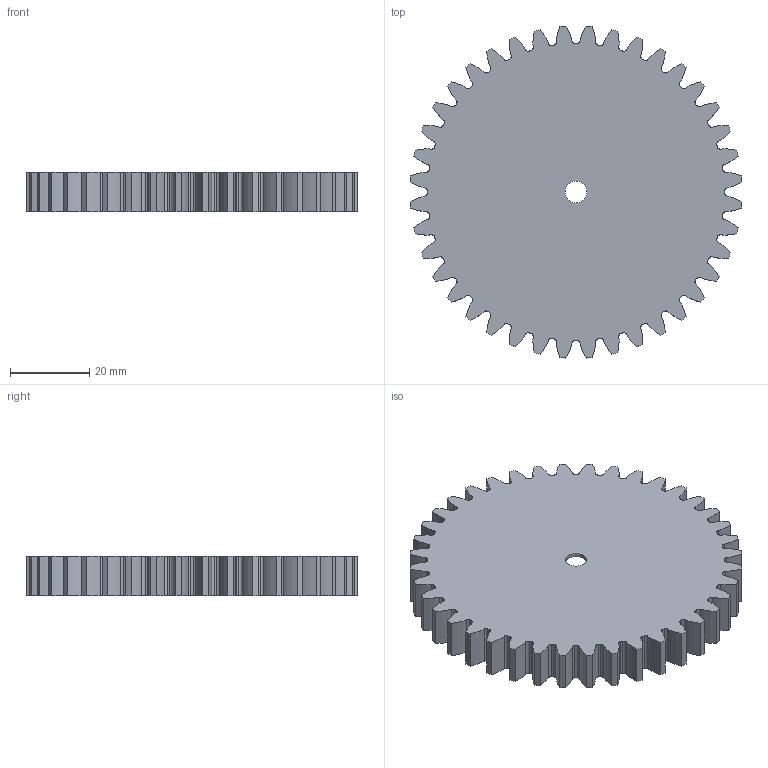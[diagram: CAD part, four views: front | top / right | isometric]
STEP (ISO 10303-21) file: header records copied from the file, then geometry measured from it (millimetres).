
FILE_DESCRIPTION(('STEP AP242 Edition 2','STEP AP242 Edition 2''CAx-IF Rec.Pracs.---Representation and Presentation of Product Manufacturing Information (PMI)---4.0---2014-10-13','STEP AP242 Edition 2''CAx-IF Rec.Pracs.---Representation and Presentation of Product Manufacturing Information (PMI)---4.0---2014-10-13''CAx-IF Rec.Pracs.---3D Tessellated Geometry---0.4---2014-09-14','STEP AP242 Edition 2''CAx-IF Rec.Pracs.---Representation and Presentation of Product Manufacturing Information (PMI)---4.0---2014-10-13''CAx-IF Rec.Pracs.---3D Tessellated Geometry---0.4---2014-09-14''2;1','STEP AP242 Edition 2''CAx-IF Rec.Pracs.---Representation and Presentation of Product Manufacturing Information (PMI)---4.0---2014-10-13''CAx-IF Rec.Pracs.---3D Tessellated Geometry---0.4---2014-09-14''2;1''CAx-IF Rec.Pracs.---User Defined Attributes---1.5---2016-08-15'),'2;1');
FILE_NAME('/vol/tmp/translate-3531405065204761669/compoundTPUGear - Spur gear (40 teeth).step','2026-03-05T22:43:33',(''),(''),'ST-DEVELOPER v20','ONSHAPE BY PTC INC, 1.211',' ');
FILE_SCHEMA(('AP242_MANAGED_MODEL_BASED_3D_ENGINEERING_MIM_LF { 1 0 10303 442 3 1 4 }'));
Length unit declared in the file: metre
Products named in the file (1): Spur gear (40 teeth)
Bounding box: 83.85 x 83.85 x 10 mm (x, y, z)
Volume: 41371.4 mm3; surface area: 15975.4 mm2
Topology: 1 solids, 1 shells, 252 faces, 748 edges, 499 vertices
Faces by surface type: cylinder 165, bspline 80, plane 7
Full cylindrical faces by diameter (mm): 5.5 x1
Entity records: 13082 total; most frequent: CARTESIAN_POINT 6537, ORIENTED_EDGE 1492, DIRECTION 1262, EDGE_CURVE 746, AXIS2_PLACEMENT_3D 503, VERTEX_POINT 498, CIRCLE 330, LINE 256
